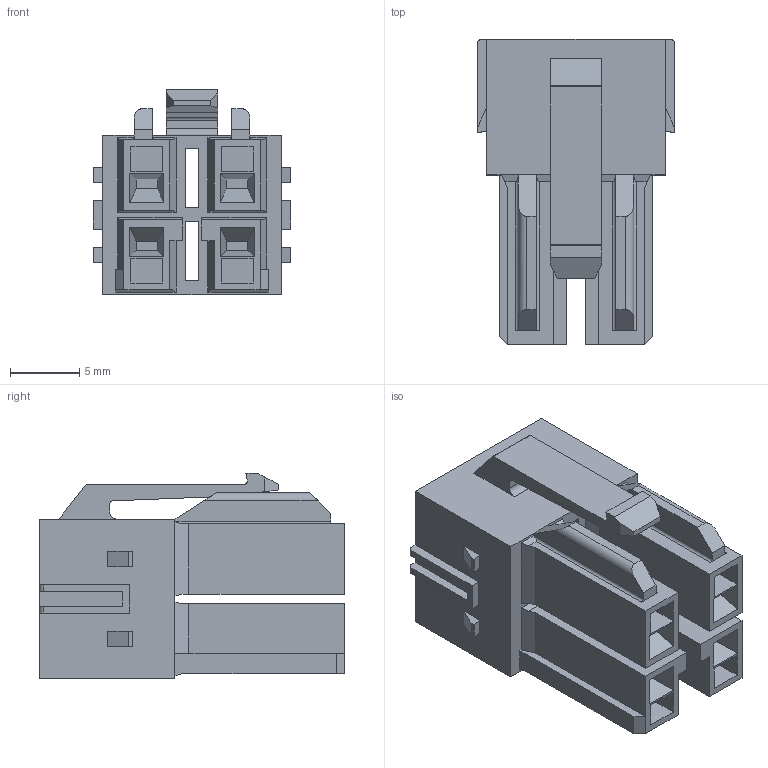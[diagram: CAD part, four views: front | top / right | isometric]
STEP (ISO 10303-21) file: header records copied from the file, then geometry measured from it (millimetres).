
FILE_DESCRIPTION((''),'2;1');
FILE_NAME('1512072401','2019-12-30T',('gga'),(''),'PRO/ENGINEER BY PARAMETRIC TECHNOLOGY CORPORATION, 2016010','PRO/ENGINEER BY PARAMETRIC TECHNOLOGY CORPORATION, 2016010','');
FILE_SCHEMA(('CONFIG_CONTROL_DESIGN'));
Length unit declared in the file: millimetre
Products named in the file (1): 1512072401
Bounding box: 14.24 x 21.95 x 14.8 mm (x, y, z)
Volume: 2155.1 mm3; surface area: 2378.6 mm2
Topology: 1 solids, 1 shells, 413 faces, 1101 edges, 714 vertices
Faces by surface type: plane 399, cylinder 14
Entity records: 12612 total; most frequent: CARTESIAN_POINT 2286, ORIENTED_EDGE 2202, DIRECTION 1947, EDGE_CURVE 1101, VECTOR 1067, LINE 1067, VERTEX_POINT 714, EDGE_LOOP 441
